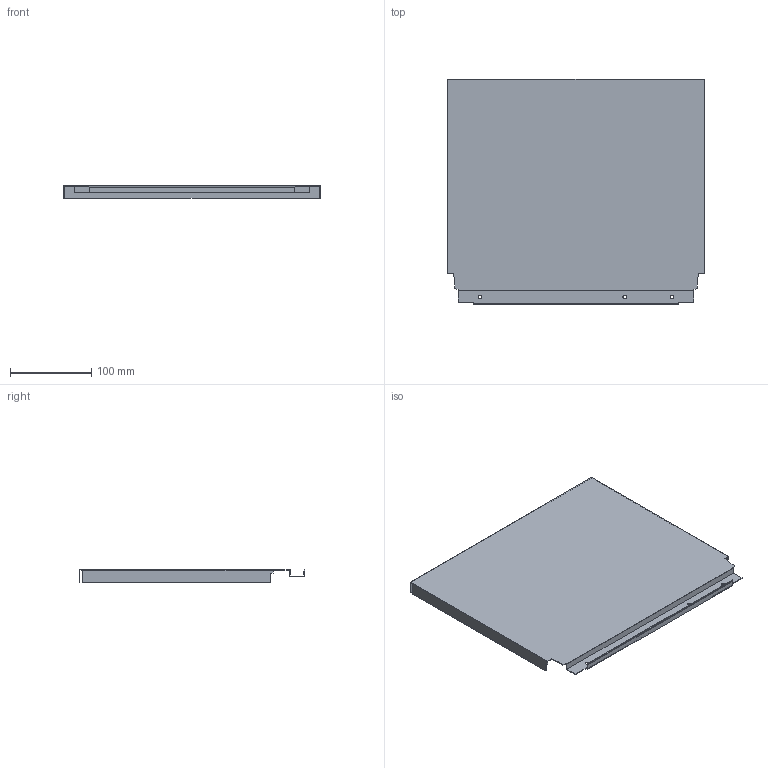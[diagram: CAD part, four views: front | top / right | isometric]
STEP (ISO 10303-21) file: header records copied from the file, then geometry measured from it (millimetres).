
FILE_DESCRIPTION (( 'STEP AP214' ), '1' );
FILE_NAME ('_DWD_XP Stahlrückwand_H278_KAB400_S16.step', '2010-07-08T13:03:44', ( 'grass' ), ( '' ), 'SwSTEP 2.0', 'SolidWorks 2010', '' );
FILE_SCHEMA (( 'AUTOMOTIVE_DESIGN' ));
Length unit declared in the file: millimetre
Products named in the file (1): _DWD_XP Stahlrückwand_H278_KAB400_S16
Bounding box: 317 x 278.57 x 16 mm (x, y, z)
Volume: 90893.6 mm3; surface area: 207737.6 mm2
Topology: 1 solids, 1 shells, 46 faces, 132 edges, 88 vertices
Faces by surface type: plane 40, cylinder 6
Entity records: 1534 total; most frequent: CARTESIAN_POINT 267, ORIENTED_EDGE 264, DIRECTION 238, EDGE_CURVE 132, VECTOR 120, LINE 120, VERTEX_POINT 88, AXIS2_PLACEMENT_3D 59
